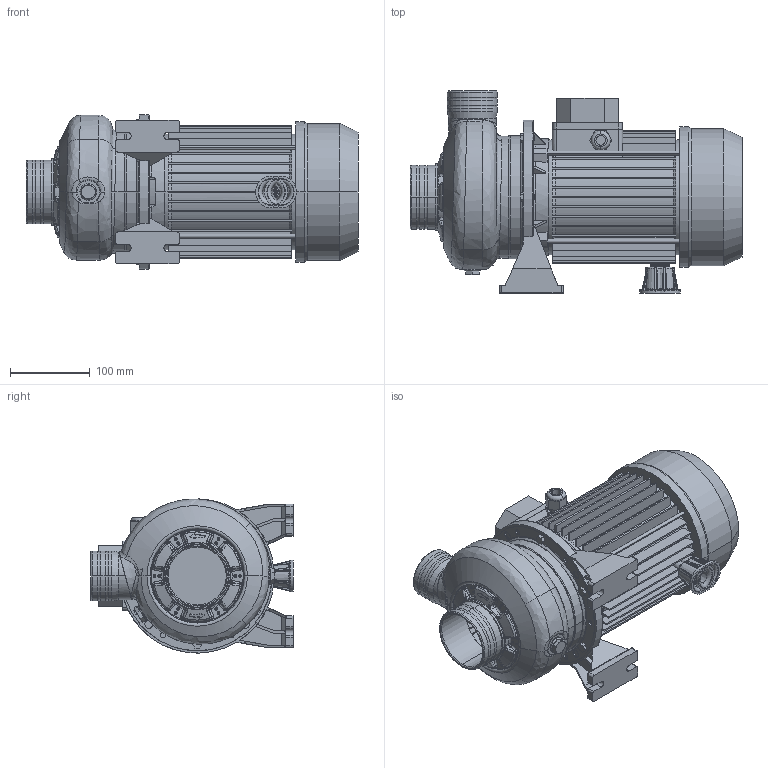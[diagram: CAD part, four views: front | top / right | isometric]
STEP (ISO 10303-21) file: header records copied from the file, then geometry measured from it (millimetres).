
FILE_DESCRIPTION((''),'2;1');
FILE_NAME('DWO_300_IE2_ASM','2011-07-06T',('Utente'),('"Ebara Pumps Europe +39.444.706811"'),'PRO/ENGINEER BY PARAMETRIC TECHNOLOGY CORPORATION, 2009360','PRO/ENGINEER BY PARAMETRIC TECHNOLOGY CORPORATION, 2009360','');
FILE_SCHEMA(('AUTOMOTIVE_DESIGN { 1 0 10303 214 1 1 1 1 }'));
Length unit declared in the file: millimetre
Products named in the file (12): MEC_90X120_IE2; 80598; 251420991; 62037; 62035; 10054; 76006; 40032; 20993_ASM; 72012; 360610016; DWO_300_IE2_ASM
Assembly tree (15 placements, depth 3):
  DWO_300_IE2_ASM
    MEC_90X120_IE2
    80598
    20993_ASM
      251420991
      62037
      62035
      10054
      76006  x2
      40032  x2
    72012  x2
    360610016  x2
Bounding box: 415.5 x 253 x 192.93 mm (x, y, z)
Volume: 3362498.5 mm3; surface area: 753083.2 mm2
Topology: 14 solids, 14 shells, 1788 faces, 4295 edges, 2584 vertices
Faces by surface type: plane 519, bspline 506, cylinder 302, torus 241, cone 174, sphere 42, extrusion 4
Entity records: 90891 total; most frequent: CARTESIAN_POINT 41374, ORIENTED_EDGE 7668, DIRECTION 6571, EDGE_CURVE 3834, PRESENTATION_STYLE_ASSIGNMENT 3831, STYLED_ITEM 3831, CURVE_STYLE 3822, AXIS2_PLACEMENT_3D 2712
